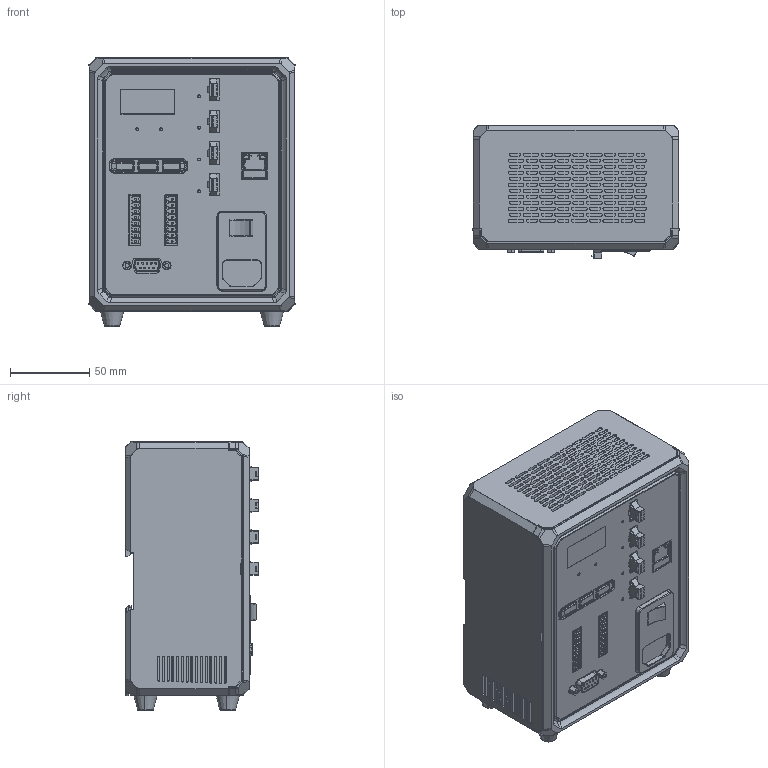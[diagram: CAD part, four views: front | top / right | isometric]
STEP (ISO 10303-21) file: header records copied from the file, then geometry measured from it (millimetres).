
FILE_DESCRIPTION((''),'2;1');
FILE_NAME('LS-LE200-200W24-4TD','2024-04-07T10:38:48',('LumaSpec Vision'),('LumaSpec Vision'),'CREO PARAMETRIC BY PTC INC, 2020044','CREO PARAMETRIC BY PTC INC, 2020044','');
FILE_SCHEMA(('CONFIG_CONTROL_DESIGN'));
Products named in the file (1): PRT0084
Bounding box: 130.23 x 83.85 x 169.62 mm (x, y, z)
Volume: 1529832.5 mm3; surface area: 165277.4 mm2
Topology: 1 solids, 47 shells, 4620 faces, 12776 edges, 8639 vertices
Faces by surface type: plane 2820, cylinder 1177, bspline 294, extrusion 110, cone 99, torus 93, sphere 19, revolution 8
Entity records: 173689 total; most frequent: CARTESIAN_POINT 55587, ORIENTED_EDGE 25516, DIRECTION 23152, EDGE_CURVE 12758, VERTEX_POINT 8639, VECTOR 8226, LINE 8116, AXIS2_PLACEMENT_3D 7459
